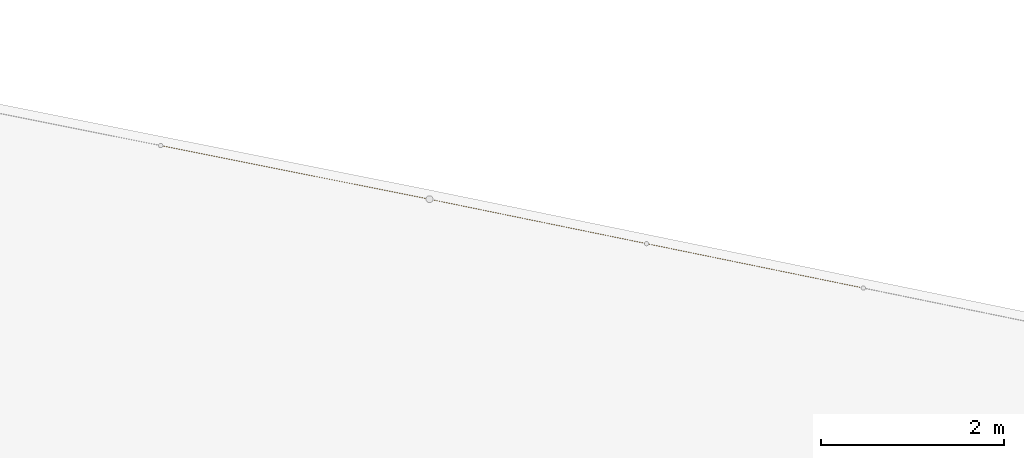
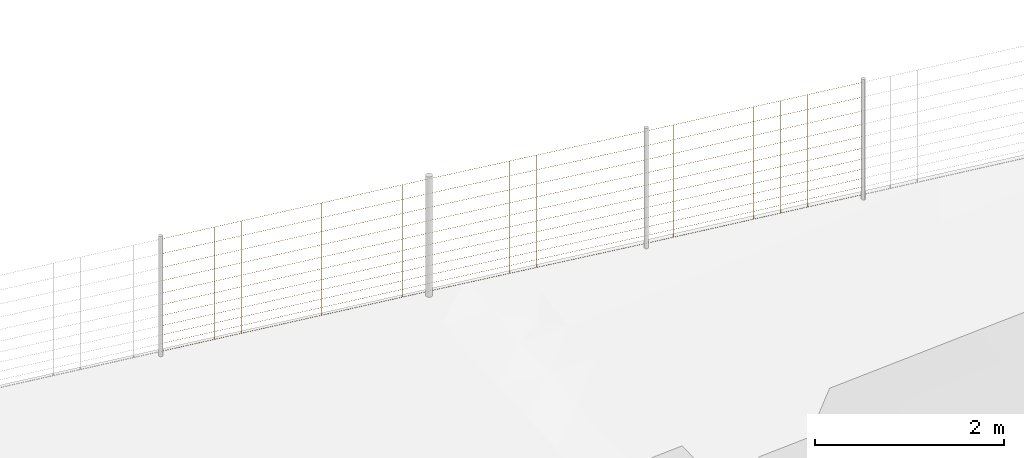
# Not in any storey, part 43 of 72: 3 railings.
"""IFC4 model written with IfcOpenShell, lengths in metres."""

import ifcopenshell
import ifcopenshell.guid

model = None  # the IFC model being written
_history = None  # IfcOwnerHistory: only IFC2X3 demands one
_inside = {}  # id of a spatial element -> (the spatial element, [elements in it])
_under = {}  # id of a project, library or spatial element -> (it, [spatial elements below it])
_declared = {}  # id of a project -> (the project, [libraries it declares])
_typed = {}  # id of a type object -> (the type object, [elements of that type])
_made_of = {}  # id of a material, layer set ... -> (it, [elements and type objects made of it])


def new_model(schema):
    """Start an empty IFC model of exactly this schema.

    Asked for "IFC4X3", IfcOpenShell would pick the latest addendum, in which some entities
    have other attributes; the version numbers below select the first issue.
    IFC2X3 requires an IfcOwnerHistory on every rooted entity: one is made here for all.
    """
    global model, _history
    if schema == "IFC4X3":
        model = ifcopenshell.file(schema_version=(4, 3, 0, 0))
    else:
        model = ifcopenshell.file(schema=schema)
    _inside.clear()
    _under.clear()
    _declared.clear()
    _typed.clear()
    _made_of.clear()
    _history = None
    if model.schema == "IFC2X3":
        org = make("IfcOrganization", Name="unknown")
        user = make(
            "IfcPersonAndOrganization",
            ThePerson=make("IfcPerson", FamilyName="unknown"),
            TheOrganization=org,
        )
        app = make(
            "IfcApplication",
            ApplicationDeveloper=org,
            Version="unknown",
            ApplicationFullName="unknown",
            ApplicationIdentifier="unknown",
        )
        _history = make(
            "IfcOwnerHistory",
            OwningUser=user,
            OwningApplication=app,
            ChangeAction="ADDED",
            CreationDate=0,
        )
    return model


def make(cls, **values):
    """One entity of the class cls with the attributes given. An attribute that is None is left unset."""
    return model.create_entity(
        cls, **{name: value for name, value in values.items() if value is not None}
    )


def rooted(cls, **values):
    """An entity with a GlobalId (a new one), such as an element, a storey or a relation."""
    return make(cls, GlobalId=ifcopenshell.guid.new(), OwnerHistory=_history, **values)


def si_unit(unit_type, name, prefix=None):
    """IfcSIUnit, for example si_unit("LENGTHUNIT", "METRE", prefix="MILLI")."""
    return make("IfcSIUnit", UnitType=unit_type, Prefix=prefix, Name=name)


def assignment(units):
    """IfcUnitAssignment: the units of a project."""
    return None if units is None else make("IfcUnitAssignment", Units=units)


def point(xyz):
    """IfcCartesianPoint."""
    return None if xyz is None else make("IfcCartesianPoint", Coordinates=xyz)


def direction(xyz):
    """IfcDirection."""
    return None if xyz is None else make("IfcDirection", DirectionRatios=xyz)


def frame(location, z_axis=None, x_axis=None):
    """IfcAxis2Placement3D, a coordinate frame: its origin and axes. An axis left out is left unset."""
    return make(
        "IfcAxis2Placement3D",
        Location=point(location),
        Axis=direction(z_axis),
        RefDirection=direction(x_axis),
    )


def origin_with_axes():
    """The frame at (0, 0, 0) with the z axis (0, 0, 1) and the x axis (1, 0, 0) written out."""
    return frame((0.0, 0.0, 0.0), z_axis=(0.0, 0.0, 1.0), x_axis=(1.0, 0.0, 0.0))


def place(relative_to, where):
    """IfcLocalPlacement: puts the frame where relative to a parent placement (None: the world)."""
    return make(
        "IfcLocalPlacement", PlacementRelTo=relative_to, RelativePlacement=where
    )


def context(
    kind, dimensions, precision=None, world=None, true_north=None, identifier=None
):
    """IfcGeometricRepresentationContext, for example the 3D "Model" context."""
    return make(
        "IfcGeometricRepresentationContext",
        ContextIdentifier=identifier,
        ContextType=kind,
        CoordinateSpaceDimension=dimensions,
        Precision=precision,
        WorldCoordinateSystem=world,
        TrueNorth=true_north,
    )


def subcontext(parent, identifier, kind, view, scale=None):
    """IfcGeometricRepresentationSubContext, for example "Body" below "Model"."""
    return make(
        "IfcGeometricRepresentationSubContext",
        ContextIdentifier=identifier,
        ContextType=kind,
        ParentContext=parent,
        TargetScale=scale,
        TargetView=view,
    )


def project(units=None, contexts=None):
    """IfcProject with its units and contexts."""
    return rooted(
        "IfcProject",
        Name="project",
        RepresentationContexts=contexts,
        UnitsInContext=assignment(units),
    )


def spatial(cls, under=None, at=None, **own):
    """A site, building, storey or space (cls), placed at a placement, below another one or the project."""
    s = rooted(cls, ObjectPlacement=at, **own)
    if under is not None:
        _under.setdefault(under.id(), (under, []))[1].append(s)
    return s


def point_list(points):
    """IfcCartesianPointList2D or 3D."""
    cls = (
        "IfcCartesianPointList2D" if len(points[0]) == 2 else "IfcCartesianPointList3D"
    )
    return make(cls, CoordList=points)


def polygons(points, faces, closed=None, point_numbers=None):
    """IfcPolygonalFaceSet: a face is its outer loop, then its inner loops; points numbered from 1."""
    made = []
    for loops in faces:
        if len(loops) == 1:
            made.append(make("IfcIndexedPolygonalFace", CoordIndex=loops[0]))
        else:
            made.append(
                make(
                    "IfcIndexedPolygonalFaceWithVoids",
                    CoordIndex=loops[0],
                    InnerCoordIndices=loops[1:],
                )
            )
    return make(
        "IfcPolygonalFaceSet",
        Coordinates=point_list(points),
        Closed=closed,
        Faces=made,
        PnIndex=point_numbers,
    )


def shape(context_of_items, identifier, shape_type, items):
    """IfcShapeRepresentation: the items that make up one representation, for example the "Body"."""
    return make(
        "IfcShapeRepresentation",
        ContextOfItems=context_of_items,
        RepresentationIdentifier=identifier,
        RepresentationType=shape_type,
        Items=items,
    )


def material(Name=None, Category=None):
    """IfcMaterial."""
    return make("IfcMaterial", Name=Name, Category=Category)


def made_of(thing, what):
    """Note that an element or type object is made of a material, layer set ...; save() writes the relation."""
    if what is not None:
        _made_of.setdefault(what.id(), (what, []))[1].append(thing)
    return thing


def element(
    cls,
    number,
    at=None,
    inside=None,
    cuts=None,
    type_object=None,
    material=None,
    context=None,
    identifier="Body",
    shape_type=None,
    held_by="IfcProductDefinitionShape",
    body=None,
    shapes=None,
    **own,
):
    """One element of the class cls, such as IfcWall. Its Tag is "e" and its number.

    at: its placement. inside: the storey or other place that contains it. cuts: it is an
    opening in that element (IfcRelVoidsElement). A single representation is given by context,
    identifier, shape_type and body (its items); several are given by shapes. held_by: the class
    of the entity that holds the representations. save() writes the other relations.
    """
    e = rooted(cls, Tag="e%d" % number, ObjectPlacement=at, **own)
    if body is not None:
        shapes = [shape(context, identifier, shape_type, body)]
    if shapes is not None:
        e.Representation = make(held_by, Representations=shapes)
    if inside is not None:
        _inside.setdefault(inside.id(), (inside, []))[1].append(e)
    if cuts is not None:
        rooted(
            "IfcRelVoidsElement", RelatingBuildingElement=cuts, RelatedOpeningElement=e
        )
    if type_object is not None:
        _typed.setdefault(type_object.id(), (type_object, []))[1].append(e)
    return made_of(e, material)


def aggregate(whole, parts):
    """IfcRelAggregates: a whole, such as a stair, and the parts it consists of."""
    return rooted("IfcRelAggregates", RelatingObject=whole, RelatedObjects=parts)


def save(model, path):
    """Write the relations noted so far, then the file.

    IfcRelAggregates (storeys below a building ...), IfcRelContainedInSpatialStructure (elements
    in a storey), IfcRelDefinesByType, IfcRelAssociatesMaterial and IfcRelDeclares: one each for
    every whole, place, type object, material and project.
    """
    for whole, parts in _under.values():
        aggregate(whole, parts)
    for where, things in _inside.values():
        rooted(
            "IfcRelContainedInSpatialStructure",
            RelatedElements=things,
            RelatingStructure=where,
        )
    for kind, things in _typed.values():
        rooted("IfcRelDefinesByType", RelatedObjects=things, RelatingType=kind)
    for what, things in _made_of.values():
        rooted("IfcRelAssociatesMaterial", RelatedObjects=things, RelatingMaterial=what)
    for by, libraries in _declared.values():
        rooted("IfcRelDeclares", RelatingContext=by, RelatedDefinitions=libraries)
    model.write(path)


model = new_model("IFC4")

# Units and contexts
model_context = context("Model", 3, precision=1e-05, world=origin_with_axes(), true_north=direction((0.0, 1.0)))
body_context = subcontext(model_context, "Body", "Model", "MODEL_VIEW")
ifc_project = project(units=[si_unit("VOLUMEUNIT", "CUBIC_METRE"), si_unit("LENGTHUNIT", "METRE"), si_unit("AREAUNIT", "SQUARE_METRE")], contexts=[model_context])

# Site
site_placement = place(None, origin_with_axes())
site = spatial("IfcSite", under=ifc_project, at=site_placement, Name="Lares · Rua das Mercês · artigo 4771")

# Railings
ifc_material = material(Name="Aço galvanizado / Stahl verzinkt", Category="steel")
railing_1_placement = place(site_placement, frame((0.0, 0.0, 0.0), z_axis=(0.0, 0.0, 1.0), x_axis=(1.0, -1.03767253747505e-17, 0.0)))
element("IfcRailing", 1, at=railing_1_placement, inside=site, material=ifc_material, Name="Vedação · rede ovelheira 1.063", ObjectType="SHEEP_WIRE_FENCE", PredefinedType="USERDEFINED", context=body_context, shape_type="Tessellation", body=[
    polygons([(33.677294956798, 17.9190041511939, 14.6710853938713), (33.6776402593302, 17.9204648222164, 14.6695863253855), (33.6778818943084, 17.9219461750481, 14.6710853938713), (33.6775365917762, 17.9204855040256, 14.6725844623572), (36.6180946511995, 17.332310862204, 14.7768175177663), (36.6184399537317, 17.3337715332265, 14.7753184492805), (36.6186815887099, 17.3352528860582, 14.7768175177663), (36.6183362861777, 17.3337922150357, 14.7783165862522), (33.677294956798, 17.9190041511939, 14.7710853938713), (33.6776402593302, 17.9204648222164, 14.7695863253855), (33.6778818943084, 17.9219461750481, 14.7710853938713), (33.6775365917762, 17.9204855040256, 14.7725844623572), (36.6180946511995, 17.332310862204, 14.8768175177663), (36.6184399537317, 17.3337715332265, 14.8753184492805), (36.6186815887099, 17.3352528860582, 14.8768175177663), (36.6183362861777, 17.3337922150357, 14.8783165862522), (33.677294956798, 17.9190041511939, 14.8810853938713), (33.6776402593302, 17.9204648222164, 14.8795863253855), (33.6778818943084, 17.9219461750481, 14.8810853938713), (33.6775365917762, 17.9204855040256, 14.8825844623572), (36.6180946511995, 17.332310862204, 14.9868175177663), (36.6184399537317, 17.3337715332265, 14.9853184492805), (36.6186815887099, 17.3352528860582, 14.9868175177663), (36.6183362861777, 17.3337922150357, 14.9883165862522), (33.677294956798, 17.9190041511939, 15.0010853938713), (33.6776402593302, 17.9204648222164, 14.9995863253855), (33.6778818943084, 17.9219461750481, 15.0010853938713), (33.6775365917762, 17.9204855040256, 15.0025844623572), (36.6180946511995, 17.332310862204, 15.1068175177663), (36.6184399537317, 17.3337715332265, 15.1053184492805), (36.6186815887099, 17.3352528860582, 15.1068175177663), (36.6183362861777, 17.3337922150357, 15.1083165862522), (33.677294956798, 17.9190041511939, 15.1310853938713), (33.6776402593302, 17.9204648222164, 15.1295863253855), (33.6778818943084, 17.9219461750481, 15.1310853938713), (33.6775365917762, 17.9204855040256, 15.1325844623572), (36.6180946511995, 17.332310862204, 15.2368175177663), (36.6184399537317, 17.3337715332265, 15.2353184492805), (36.6186815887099, 17.3352528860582, 15.2368175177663), (36.6183362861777, 17.3337922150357, 15.2383165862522), (33.677294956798, 17.9190041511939, 15.2710853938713), (33.6776402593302, 17.9204648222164, 15.2695863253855), (33.6778818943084, 17.9219461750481, 15.2710853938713), (33.6775365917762, 17.9204855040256, 15.2725844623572), (36.6180946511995, 17.332310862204, 15.3768175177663), (36.6184399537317, 17.3337715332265, 15.3753184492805), (36.6186815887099, 17.3352528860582, 15.3768175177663), (36.6183362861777, 17.3337922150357, 15.3783165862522), (33.677294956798, 17.9190041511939, 15.4210853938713), (33.6776402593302, 17.9204648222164, 15.4195863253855), (33.6778818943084, 17.9219461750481, 15.4210853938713), (33.6775365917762, 17.9204855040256, 15.4225844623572), (36.6180946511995, 17.332310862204, 15.5268175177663), (36.6184399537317, 17.3337715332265, 15.5253184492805), (36.6186815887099, 17.3352528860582, 15.5268175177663), (36.6183362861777, 17.3337922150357, 15.5283165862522), (33.677294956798, 17.9190041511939, 15.5810853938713), (33.6776402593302, 17.9204648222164, 15.5795863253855), (33.6778818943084, 17.9219461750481, 15.5810853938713), (33.6775365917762, 17.9204855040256, 15.5825844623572), (36.6180946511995, 17.332310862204, 15.6868175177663), (36.6184399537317, 17.3337715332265, 15.6853184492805), (36.6186815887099, 17.3352528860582, 15.6868175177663), (36.6183362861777, 17.3337922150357, 15.6883165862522), (33.677294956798, 17.9190041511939, 15.7510853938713), (33.6776402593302, 17.9204648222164, 15.7495863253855), (33.6778818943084, 17.9219461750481, 15.7510853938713), (33.6775365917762, 17.9204855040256, 15.7525844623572), (36.6180946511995, 17.332310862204, 15.8568175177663), (36.6184399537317, 17.3337715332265, 15.8553184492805), (36.6186815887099, 17.3352528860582, 15.8568175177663), (36.6183362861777, 17.3337922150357, 15.8583165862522), (33.677294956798, 17.9190041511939, 15.9310853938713), (33.6776402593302, 17.9204648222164, 15.9295863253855), (33.6778818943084, 17.9219461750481, 15.9310853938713), (33.6775365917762, 17.9204855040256, 15.9325844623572), (36.6180946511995, 17.332310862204, 16.0368175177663), (36.6184399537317, 17.3337715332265, 16.0353184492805), (36.6186815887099, 17.3352528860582, 16.0368175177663), (36.6183362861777, 17.3337922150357, 16.0383165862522), (33.677294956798, 17.9190041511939, 16.1210853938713), (33.6776402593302, 17.9204648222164, 16.1195863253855), (33.6778818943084, 17.9219461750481, 16.1210853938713), (33.6775365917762, 17.9204855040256, 16.1225844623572), (36.6180946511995, 17.332310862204, 16.2268175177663), (36.6184399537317, 17.3337715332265, 16.2253184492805), (36.6186815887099, 17.3352528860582, 16.2268175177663), (36.6183362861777, 17.3337922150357, 16.2283165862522), (33.971790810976, 17.8632814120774, 14.6816630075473), (33.970290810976, 17.8617814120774, 14.6816630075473), (33.971790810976, 17.8602814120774, 14.6816630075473), (33.973290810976, 17.8617814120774, 14.6816630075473), (33.971790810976, 17.8632814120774, 16.1316630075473), (33.970290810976, 17.8617814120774, 16.1316630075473), (33.971790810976, 17.8602814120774, 16.1316630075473), (33.973290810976, 17.8617814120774, 16.1316630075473), (34.2659931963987, 17.8045876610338, 14.6922406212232), (34.2644931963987, 17.8030876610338, 14.6922406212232), (34.2659931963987, 17.8015876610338, 14.6922406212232), (34.2674931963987, 17.8030876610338, 14.6922406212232), (34.2659931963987, 17.8045876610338, 16.1422406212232), (34.2644931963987, 17.8030876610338, 16.1422406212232), (34.2659931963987, 17.8015876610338, 16.1422406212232), (34.2674931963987, 17.8030876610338, 16.1422406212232), (34.5601955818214, 17.7458939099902, 14.7028182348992), (34.5586955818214, 17.7443939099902, 14.7028182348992), (34.5601955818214, 17.7428939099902, 14.7028182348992), (34.5616955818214, 17.7443939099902, 14.7028182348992), (34.5601955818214, 17.7458939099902, 16.1528182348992), (34.5586955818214, 17.7443939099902, 16.1528182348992), (34.5601955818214, 17.7428939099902, 16.1528182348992), (34.5616955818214, 17.7443939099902, 16.1528182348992), (34.8543979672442, 17.6872001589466, 14.7133958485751), (34.8528979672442, 17.6857001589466, 14.7133958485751), (34.8543979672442, 17.6842001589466, 14.7133958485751), (34.8558979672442, 17.6857001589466, 14.7133958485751), (34.8543979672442, 17.6872001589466, 16.1633958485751), (34.8528979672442, 17.6857001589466, 16.1633958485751), (34.8543979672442, 17.6842001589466, 16.1633958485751), (34.8558979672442, 17.6857001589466, 16.1633958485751), (35.1486003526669, 17.6285064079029, 14.7239734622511), (35.1471003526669, 17.6270064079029, 14.7239734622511), (35.1486003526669, 17.6255064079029, 14.7239734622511), (35.1501003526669, 17.6270064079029, 14.7239734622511), (35.1486003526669, 17.6285064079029, 16.1739734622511), (35.1471003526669, 17.6270064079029, 16.1739734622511), (35.1486003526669, 17.6255064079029, 16.1739734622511), (35.1501003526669, 17.6270064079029, 16.1739734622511), (35.4428027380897, 17.5698126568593, 14.734551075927), (35.4413027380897, 17.5683126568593, 14.734551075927), (35.4428027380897, 17.5668126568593, 14.734551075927), (35.4443027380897, 17.5683126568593, 14.734551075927), (35.4428027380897, 17.5698126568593, 16.184551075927), (35.4413027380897, 17.5683126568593, 16.184551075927), (35.4428027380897, 17.5668126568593, 16.184551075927), (35.4443027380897, 17.5683126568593, 16.184551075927), (35.7370051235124, 17.5111189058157, 14.745128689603), (35.7355051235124, 17.5096189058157, 14.745128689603), (35.7370051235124, 17.5081189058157, 14.745128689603), (35.7385051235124, 17.5096189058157, 14.745128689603), (35.7370051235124, 17.5111189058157, 16.195128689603), (35.7355051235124, 17.5096189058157, 16.195128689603), (35.7370051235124, 17.5081189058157, 16.195128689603), (35.7385051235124, 17.5096189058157, 16.195128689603), (36.0312075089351, 17.4524251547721, 14.7557063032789), (36.0297075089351, 17.4509251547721, 14.7557063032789), (36.0312075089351, 17.4494251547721, 14.7557063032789), (36.0327075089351, 17.4509251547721, 14.7557063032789), (36.0312075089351, 17.4524251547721, 16.2057063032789), (36.0297075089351, 17.4509251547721, 16.2057063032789), (36.0312075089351, 17.4494251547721, 16.2057063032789), (36.0327075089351, 17.4509251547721, 16.2057063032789), (36.3254098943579, 17.3937314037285, 14.7662839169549), (36.3239098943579, 17.3922314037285, 14.7662839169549), (36.3254098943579, 17.3907314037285, 14.7662839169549), (36.3269098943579, 17.3922314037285, 14.7662839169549), (36.3254098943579, 17.3937314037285, 16.2162839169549), (36.3239098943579, 17.3922314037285, 16.2162839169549), (36.3254098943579, 17.3907314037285, 16.2162839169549), (36.3269098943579, 17.3922314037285, 16.2162839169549)], [[[4, 3, 2, 1]], [[5, 6, 7, 8]], [[1, 2, 6, 5]], [[2, 3, 7, 6]], [[3, 4, 8, 7]], [[4, 1, 5, 8]], [[12, 11, 10, 9]], [[13, 14, 15, 16]], [[9, 10, 14, 13]], [[10, 11, 15, 14]], [[11, 12, 16, 15]], [[12, 9, 13, 16]], [[20, 19, 18, 17]], [[21, 22, 23, 24]], [[17, 18, 22, 21]], [[18, 19, 23, 22]], [[19, 20, 24, 23]], [[20, 17, 21, 24]], [[28, 27, 26, 25]], [[29, 30, 31, 32]], [[25, 26, 30, 29]], [[26, 27, 31, 30]], [[27, 28, 32, 31]], [[28, 25, 29, 32]], [[36, 35, 34, 33]], [[37, 38, 39, 40]], [[33, 34, 38, 37]], [[34, 35, 39, 38]], [[35, 36, 40, 39]], [[36, 33, 37, 40]], [[44, 43, 42, 41]], [[45, 46, 47, 48]], [[41, 42, 46, 45]], [[42, 43, 47, 46]], [[43, 44, 48, 47]], [[44, 41, 45, 48]], [[52, 51, 50, 49]], [[53, 54, 55, 56]], [[49, 50, 54, 53]], [[50, 51, 55, 54]], [[51, 52, 56, 55]], [[52, 49, 53, 56]], [[60, 59, 58, 57]], [[61, 62, 63, 64]], [[57, 58, 62, 61]], [[58, 59, 63, 62]], [[59, 60, 64, 63]], [[60, 57, 61, 64]], [[68, 67, 66, 65]], [[69, 70, 71, 72]], [[65, 66, 70, 69]], [[66, 67, 71, 70]], [[67, 68, 72, 71]], [[68, 65, 69, 72]], [[76, 75, 74, 73]], [[77, 78, 79, 80]], [[73, 74, 78, 77]], [[74, 75, 79, 78]], [[75, 76, 80, 79]], [[76, 73, 77, 80]], [[84, 83, 82, 81]], [[85, 86, 87, 88]], [[81, 82, 86, 85]], [[82, 83, 87, 86]], [[83, 84, 88, 87]], [[84, 81, 85, 88]], [[92, 91, 90, 89]], [[93, 94, 95, 96]], [[89, 90, 94, 93]], [[90, 91, 95, 94]], [[91, 92, 96, 95]], [[92, 89, 93, 96]], [[100, 99, 98, 97]], [[101, 102, 103, 104]], [[97, 98, 102, 101]], [[98, 99, 103, 102]], [[99, 100, 104, 103]], [[100, 97, 101, 104]], [[108, 107, 106, 105]], [[109, 110, 111, 112]], [[105, 106, 110, 109]], [[106, 107, 111, 110]], [[107, 108, 112, 111]], [[108, 105, 109, 112]], [[116, 115, 114, 113]], [[117, 118, 119, 120]], [[113, 114, 118, 117]], [[114, 115, 119, 118]], [[115, 116, 120, 119]], [[116, 113, 117, 120]], [[124, 123, 122, 121]], [[125, 126, 127, 128]], [[121, 122, 126, 125]], [[122, 123, 127, 126]], [[123, 124, 128, 127]], [[124, 121, 125, 128]], [[132, 131, 130, 129]], [[133, 134, 135, 136]], [[129, 130, 134, 133]], [[130, 131, 135, 134]], [[131, 132, 136, 135]], [[132, 129, 133, 136]], [[140, 139, 138, 137]], [[141, 142, 143, 144]], [[137, 138, 142, 141]], [[138, 139, 143, 142]], [[139, 140, 144, 143]], [[140, 137, 141, 144]], [[148, 147, 146, 145]], [[149, 150, 151, 152]], [[145, 146, 150, 149]], [[146, 147, 151, 150]], [[147, 148, 152, 151]], [[148, 145, 149, 152]], [[156, 155, 154, 153]], [[157, 158, 159, 160]], [[153, 154, 158, 157]], [[154, 155, 159, 158]], [[155, 156, 160, 159]], [[156, 153, 157, 160]]]),
])
railing_2_placement = place(site_placement, frame((0.0, 0.0, 0.0), z_axis=(0.0, 0.0, 1.0), x_axis=(1.0, -1.03767253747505e-17, 0.0)))
element("IfcRailing", 2, at=railing_2_placement, inside=site, material=ifc_material, Name="Vedação · rede ovelheira 1.064", ObjectType="SHEEP_WIRE_FENCE", PredefinedType="USERDEFINED", context=body_context, shape_type="Tessellation", body=[
    polygons([(36.618087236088, 17.3323123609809, 14.7768175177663), (36.6184372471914, 17.3337718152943, 14.7753183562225), (36.6186890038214, 17.3352513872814, 14.7768175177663), (36.6183389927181, 17.3337919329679, 14.7783166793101), (38.9902403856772, 16.846612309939, 14.8578113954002), (38.9905903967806, 16.8480717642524, 14.8563122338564), (38.9908421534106, 16.8495513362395, 14.8578113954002), (38.9904921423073, 16.848091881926, 14.859310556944), (36.618087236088, 17.3323123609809, 14.8768175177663), (36.6184372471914, 17.3337718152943, 14.8753183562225), (36.6186890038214, 17.3352513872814, 14.8768175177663), (36.6183389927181, 17.3337919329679, 14.8783166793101), (38.9902403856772, 16.846612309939, 14.9578113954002), (38.9905903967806, 16.8480717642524, 14.9563122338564), (38.9908421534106, 16.8495513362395, 14.9578113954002), (38.9904921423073, 16.848091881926, 14.959310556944), (36.618087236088, 17.3323123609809, 14.9868175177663), (36.6184372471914, 17.3337718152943, 14.9853183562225), (36.6186890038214, 17.3352513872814, 14.9868175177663), (36.6183389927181, 17.3337919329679, 14.9883166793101), (38.9902403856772, 16.846612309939, 15.0678113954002), (38.9905903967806, 16.8480717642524, 15.0663122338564), (38.9908421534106, 16.8495513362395, 15.0678113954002), (38.9904921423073, 16.848091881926, 15.069310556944), (36.618087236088, 17.3323123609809, 15.1068175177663), (36.6184372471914, 17.3337718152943, 15.1053183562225), (36.6186890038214, 17.3352513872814, 15.1068175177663), (36.6183389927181, 17.3337919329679, 15.1083166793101), (38.9902403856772, 16.846612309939, 15.1878113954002), (38.9905903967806, 16.8480717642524, 15.1863122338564), (38.9908421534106, 16.8495513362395, 15.1878113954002), (38.9904921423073, 16.848091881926, 15.189310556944), (36.618087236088, 17.3323123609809, 15.2368175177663), (36.6184372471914, 17.3337718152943, 15.2353183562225), (36.6186890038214, 17.3352513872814, 15.2368175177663), (36.6183389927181, 17.3337919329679, 15.2383166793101), (38.9902403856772, 16.846612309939, 15.3178113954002), (38.9905903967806, 16.8480717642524, 15.3163122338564), (38.9908421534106, 16.8495513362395, 15.3178113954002), (38.9904921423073, 16.848091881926, 15.319310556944), (36.618087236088, 17.3323123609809, 15.3768175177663), (36.6184372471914, 17.3337718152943, 15.3753183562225), (36.6186890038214, 17.3352513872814, 15.3768175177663), (36.6183389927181, 17.3337919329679, 15.3783166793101), (38.9902403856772, 16.846612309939, 15.4578113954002), (38.9905903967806, 16.8480717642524, 15.4563122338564), (38.9908421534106, 16.8495513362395, 15.4578113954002), (38.9904921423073, 16.848091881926, 15.459310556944), (36.618087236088, 17.3323123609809, 15.5268175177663), (36.6184372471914, 17.3337718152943, 15.5253183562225), (36.6186890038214, 17.3352513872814, 15.5268175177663), (36.6183389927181, 17.3337919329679, 15.5283166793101), (38.9902403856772, 16.846612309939, 15.6078113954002), (38.9905903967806, 16.8480717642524, 15.6063122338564), (38.9908421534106, 16.8495513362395, 15.6078113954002), (38.9904921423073, 16.848091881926, 15.609310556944), (36.618087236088, 17.3323123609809, 15.6868175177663), (36.6184372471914, 17.3337718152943, 15.6853183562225), (36.6186890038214, 17.3352513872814, 15.6868175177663), (36.6183389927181, 17.3337919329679, 15.6883166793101), (38.9902403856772, 16.846612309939, 15.7678113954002), (38.9905903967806, 16.8480717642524, 15.7663122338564), (38.9908421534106, 16.8495513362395, 15.7678113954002), (38.9904921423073, 16.848091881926, 15.769310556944), (36.618087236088, 17.3323123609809, 15.8568175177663), (36.6184372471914, 17.3337718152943, 15.8553183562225), (36.6186890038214, 17.3352513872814, 15.8568175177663), (36.6183389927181, 17.3337919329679, 15.8583166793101), (38.9902403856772, 16.846612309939, 15.9378113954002), (38.9905903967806, 16.8480717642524, 15.9363122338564), (38.9908421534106, 16.8495513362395, 15.9378113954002), (38.9904921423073, 16.848091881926, 15.939310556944), (36.618087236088, 17.3323123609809, 16.0368175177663), (36.6184372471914, 17.3337718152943, 16.0353183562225), (36.6186890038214, 17.3352513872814, 16.0368175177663), (36.6183389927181, 17.3337919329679, 16.0383166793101), (38.9902403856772, 16.846612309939, 16.1178113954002), (38.9905903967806, 16.8480717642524, 16.1163122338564), (38.9908421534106, 16.8495513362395, 16.1178113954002), (38.9904921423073, 16.848091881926, 16.119310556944), (36.618087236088, 17.3323123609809, 16.2268175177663), (36.6184372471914, 17.3337718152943, 16.2253183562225), (36.6186890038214, 17.3352513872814, 16.2268175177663), (36.6183389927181, 17.3337919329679, 16.2283166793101), (38.9902403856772, 16.846612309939, 16.3078113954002), (38.9905903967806, 16.8480717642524, 16.3063122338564), (38.9908421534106, 16.8495513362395, 16.3078113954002), (38.9904921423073, 16.848091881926, 16.309310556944), (36.9122907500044, 17.2751051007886, 14.7868524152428), (36.9107907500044, 17.2736051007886, 14.7868524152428), (36.9122907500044, 17.2721051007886, 14.7868524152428), (36.9137907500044, 17.2736051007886, 14.7868524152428), (36.9122907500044, 17.2751051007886, 16.2368524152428), (36.9107907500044, 17.2736051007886, 16.2368524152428), (36.9122907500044, 17.2721051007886, 16.2368524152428), (36.9137907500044, 17.2736051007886, 16.2368524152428), (37.206193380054, 17.2149283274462, 14.7968873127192), (37.204693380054, 17.2134283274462, 14.7968873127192), (37.206193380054, 17.2119283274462, 14.7968873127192), (37.207693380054, 17.2134283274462, 14.7968873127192), (37.206193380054, 17.2149283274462, 16.2468873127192), (37.204693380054, 17.2134283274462, 16.2468873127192), (37.206193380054, 17.2119283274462, 16.2468873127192), (37.207693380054, 17.2134283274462, 16.2468873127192), (37.5000960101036, 17.1547515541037, 14.8069222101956), (37.4985960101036, 17.1532515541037, 14.8069222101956), (37.5000960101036, 17.1517515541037, 14.8069222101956), (37.5015960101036, 17.1532515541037, 14.8069222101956), (37.5000960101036, 17.1547515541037, 16.2569222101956), (37.4985960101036, 17.1532515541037, 16.2569222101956), (37.5000960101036, 17.1517515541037, 16.2569222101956), (37.5015960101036, 17.1532515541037, 16.2569222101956), (37.7939986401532, 17.0945747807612, 14.8169571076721), (37.7924986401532, 17.0930747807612, 14.8169571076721), (37.7939986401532, 17.0915747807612, 14.8169571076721), (37.7954986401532, 17.0930747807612, 14.8169571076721), (37.7939986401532, 17.0945747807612, 16.2669571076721), (37.7924986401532, 17.0930747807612, 16.2669571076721), (37.7939986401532, 17.0915747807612, 16.2669571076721), (37.7954986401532, 17.0930747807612, 16.2669571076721), (38.0879012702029, 17.0343980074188, 14.8269920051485), (38.0864012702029, 17.0328980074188, 14.8269920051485), (38.0879012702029, 17.0313980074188, 14.8269920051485), (38.0894012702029, 17.0328980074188, 14.8269920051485), (38.0879012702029, 17.0343980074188, 16.2769920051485), (38.0864012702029, 17.0328980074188, 16.2769920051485), (38.0879012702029, 17.0313980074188, 16.2769920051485), (38.0894012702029, 17.0328980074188, 16.2769920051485), (38.3818039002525, 16.9742212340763, 14.8370269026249), (38.3803039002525, 16.9727212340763, 14.8370269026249), (38.3818039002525, 16.9712212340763, 14.8370269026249), (38.3833039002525, 16.9727212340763, 14.8370269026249), (38.3818039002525, 16.9742212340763, 16.2870269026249), (38.3803039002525, 16.9727212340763, 16.2870269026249), (38.3818039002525, 16.9712212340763, 16.2870269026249), (38.3833039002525, 16.9727212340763, 16.2870269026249), (38.6757065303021, 16.9140444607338, 14.8470618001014), (38.6742065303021, 16.9125444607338, 14.8470618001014), (38.6757065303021, 16.9110444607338, 14.8470618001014), (38.6772065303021, 16.9125444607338, 14.8470618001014), (38.6757065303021, 16.9140444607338, 16.2970618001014), (38.6742065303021, 16.9125444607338, 16.2970618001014), (38.6757065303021, 16.9110444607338, 16.2970618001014), (38.6772065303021, 16.9125444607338, 16.2970618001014)], [[[4, 3, 2, 1]], [[5, 6, 7, 8]], [[1, 2, 6, 5]], [[2, 3, 7, 6]], [[3, 4, 8, 7]], [[4, 1, 5, 8]], [[12, 11, 10, 9]], [[13, 14, 15, 16]], [[9, 10, 14, 13]], [[10, 11, 15, 14]], [[11, 12, 16, 15]], [[12, 9, 13, 16]], [[20, 19, 18, 17]], [[21, 22, 23, 24]], [[17, 18, 22, 21]], [[18, 19, 23, 22]], [[19, 20, 24, 23]], [[20, 17, 21, 24]], [[28, 27, 26, 25]], [[29, 30, 31, 32]], [[25, 26, 30, 29]], [[26, 27, 31, 30]], [[27, 28, 32, 31]], [[28, 25, 29, 32]], [[36, 35, 34, 33]], [[37, 38, 39, 40]], [[33, 34, 38, 37]], [[34, 35, 39, 38]], [[35, 36, 40, 39]], [[36, 33, 37, 40]], [[44, 43, 42, 41]], [[45, 46, 47, 48]], [[41, 42, 46, 45]], [[42, 43, 47, 46]], [[43, 44, 48, 47]], [[44, 41, 45, 48]], [[52, 51, 50, 49]], [[53, 54, 55, 56]], [[49, 50, 54, 53]], [[50, 51, 55, 54]], [[51, 52, 56, 55]], [[52, 49, 53, 56]], [[60, 59, 58, 57]], [[61, 62, 63, 64]], [[57, 58, 62, 61]], [[58, 59, 63, 62]], [[59, 60, 64, 63]], [[60, 57, 61, 64]], [[68, 67, 66, 65]], [[69, 70, 71, 72]], [[65, 66, 70, 69]], [[66, 67, 71, 70]], [[67, 68, 72, 71]], [[68, 65, 69, 72]], [[76, 75, 74, 73]], [[77, 78, 79, 80]], [[73, 74, 78, 77]], [[74, 75, 79, 78]], [[75, 76, 80, 79]], [[76, 73, 77, 80]], [[84, 83, 82, 81]], [[85, 86, 87, 88]], [[81, 82, 86, 85]], [[82, 83, 87, 86]], [[83, 84, 88, 87]], [[84, 81, 85, 88]], [[92, 91, 90, 89]], [[93, 94, 95, 96]], [[89, 90, 94, 93]], [[90, 91, 95, 94]], [[91, 92, 96, 95]], [[92, 89, 93, 96]], [[100, 99, 98, 97]], [[101, 102, 103, 104]], [[97, 98, 102, 101]], [[98, 99, 103, 102]], [[99, 100, 104, 103]], [[100, 97, 101, 104]], [[108, 107, 106, 105]], [[109, 110, 111, 112]], [[105, 106, 110, 109]], [[106, 107, 111, 110]], [[107, 108, 112, 111]], [[108, 105, 109, 112]], [[116, 115, 114, 113]], [[117, 118, 119, 120]], [[113, 114, 118, 117]], [[114, 115, 119, 118]], [[115, 116, 120, 119]], [[116, 113, 117, 120]], [[124, 123, 122, 121]], [[125, 126, 127, 128]], [[121, 122, 126, 125]], [[122, 123, 127, 126]], [[123, 124, 128, 127]], [[124, 121, 125, 128]], [[132, 131, 130, 129]], [[133, 134, 135, 136]], [[129, 130, 134, 133]], [[130, 131, 135, 134]], [[131, 132, 136, 135]], [[132, 129, 133, 136]], [[140, 139, 138, 137]], [[141, 142, 143, 144]], [[137, 138, 142, 141]], [[138, 139, 143, 142]], [[139, 140, 144, 143]], [[140, 137, 141, 144]]]),
])
railing_3_placement = place(site_placement, frame((0.0, 0.0, 0.0), z_axis=(0.0, 0.0, 1.0), x_axis=(1.0, -1.03767253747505e-17, 0.0)))
element("IfcRailing", 3, at=railing_3_placement, inside=site, material=ifc_material, Name="Vedação · rede ovelheira 1.065", ObjectType="SHEEP_WIRE_FENCE", PredefinedType="USERDEFINED", context=body_context, shape_type="Tessellation", body=[
    polygons([(38.9902403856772, 16.846612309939, 14.8578113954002), (38.9905989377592, 16.848070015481, 14.8563125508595), (38.9908421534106, 16.8495513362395, 14.8578113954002), (38.9904836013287, 16.8480936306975, 14.859310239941), (41.3623935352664, 16.3609122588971, 14.9529065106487), (41.3627520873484, 16.3623699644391, 14.9514076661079), (41.3629953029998, 16.3638512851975, 14.9529065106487), (41.3626367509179, 16.3623935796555, 14.9544053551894), (38.9902403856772, 16.846612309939, 14.9578113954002), (38.9905989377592, 16.848070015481, 14.9563125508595), (38.9908421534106, 16.8495513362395, 14.9578113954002), (38.9904836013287, 16.8480936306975, 14.959310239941), (41.3623935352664, 16.3609122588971, 15.0529065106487), (41.3627520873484, 16.3623699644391, 15.0514076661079), (41.3629953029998, 16.3638512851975, 15.0529065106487), (41.3626367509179, 16.3623935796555, 15.0544053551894), (38.9902403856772, 16.846612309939, 15.0678113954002), (38.9905989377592, 16.848070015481, 15.0663125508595), (38.9908421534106, 16.8495513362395, 15.0678113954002), (38.9904836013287, 16.8480936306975, 15.069310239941), (41.3623935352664, 16.3609122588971, 15.1629065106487), (41.3627520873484, 16.3623699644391, 15.1614076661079), (41.3629953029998, 16.3638512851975, 15.1629065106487), (41.3626367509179, 16.3623935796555, 15.1644053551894), (38.9902403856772, 16.846612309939, 15.1878113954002), (38.9905989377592, 16.848070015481, 15.1863125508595), (38.9908421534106, 16.8495513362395, 15.1878113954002), (38.9904836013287, 16.8480936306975, 15.189310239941), (41.3623935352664, 16.3609122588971, 15.2829065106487), (41.3627520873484, 16.3623699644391, 15.2814076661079), (41.3629953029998, 16.3638512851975, 15.2829065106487), (41.3626367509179, 16.3623935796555, 15.2844053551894), (38.9902403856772, 16.846612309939, 15.3178113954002), (38.9905989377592, 16.848070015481, 15.3163125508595), (38.9908421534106, 16.8495513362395, 15.3178113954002), (38.9904836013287, 16.8480936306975, 15.319310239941), (41.3623935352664, 16.3609122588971, 15.4129065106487), (41.3627520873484, 16.3623699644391, 15.4114076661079), (41.3629953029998, 16.3638512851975, 15.4129065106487), (41.3626367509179, 16.3623935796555, 15.4144053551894), (38.9902403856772, 16.846612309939, 15.4578113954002), (38.9905989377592, 16.848070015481, 15.4563125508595), (38.9908421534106, 16.8495513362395, 15.4578113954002), (38.9904836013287, 16.8480936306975, 15.459310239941), (41.3623935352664, 16.3609122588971, 15.5529065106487), (41.3627520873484, 16.3623699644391, 15.5514076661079), (41.3629953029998, 16.3638512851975, 15.5529065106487), (41.3626367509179, 16.3623935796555, 15.5544053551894), (38.9902403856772, 16.846612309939, 15.6078113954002), (38.9905989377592, 16.848070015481, 15.6063125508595), (38.9908421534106, 16.8495513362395, 15.6078113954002), (38.9904836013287, 16.8480936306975, 15.609310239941), (41.3623935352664, 16.3609122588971, 15.7029065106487), (41.3627520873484, 16.3623699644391, 15.7014076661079), (41.3629953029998, 16.3638512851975, 15.7029065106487), (41.3626367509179, 16.3623935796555, 15.7044053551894), (38.9902403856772, 16.846612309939, 15.7678113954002), (38.9905989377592, 16.848070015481, 15.7663125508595), (38.9908421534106, 16.8495513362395, 15.7678113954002), (38.9904836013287, 16.8480936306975, 15.769310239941), (41.3623935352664, 16.3609122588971, 15.8629065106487), (41.3627520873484, 16.3623699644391, 15.8614076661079), (41.3629953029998, 16.3638512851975, 15.8629065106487), (41.3626367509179, 16.3623935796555, 15.8644053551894), (38.9902403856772, 16.846612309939, 15.9378113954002), (38.9905989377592, 16.848070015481, 15.9363125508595), (38.9908421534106, 16.8495513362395, 15.9378113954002), (38.9904836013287, 16.8480936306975, 15.939310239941), (41.3623935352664, 16.3609122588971, 16.0329065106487), (41.3627520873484, 16.3623699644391, 16.0314076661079), (41.3629953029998, 16.3638512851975, 16.0329065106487), (41.3626367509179, 16.3623935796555, 16.0344053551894), (38.9902403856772, 16.846612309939, 16.1178113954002), (38.9905989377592, 16.848070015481, 16.1163125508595), (38.9908421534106, 16.8495513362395, 16.1178113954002), (38.9904836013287, 16.8480936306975, 16.119310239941), (41.3623935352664, 16.3609122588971, 16.2129065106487), (41.3627520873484, 16.3623699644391, 16.2114076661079), (41.3629953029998, 16.3638512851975, 16.2129065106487), (41.3626367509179, 16.3623935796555, 16.2144053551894), (38.9902403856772, 16.846612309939, 16.3078113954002), (38.9905989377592, 16.848070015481, 16.3063125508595), (38.9908421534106, 16.8495513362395, 16.3078113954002), (38.9904836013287, 16.8480936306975, 16.309310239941), (41.3623935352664, 16.3609122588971, 16.4029065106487), (41.3627520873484, 16.3623699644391, 16.4014076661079), (41.3629953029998, 16.3638512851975, 16.4029065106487), (41.3626367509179, 16.3623935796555, 16.4044053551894), (39.2844438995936, 16.7894050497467, 14.8695933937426), (39.2829438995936, 16.7879050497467, 14.8695933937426), (39.2844438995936, 16.7864050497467, 14.8695933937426), (39.2859438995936, 16.7879050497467, 14.8695933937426), (39.2844438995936, 16.7894050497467, 16.3195933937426), (39.2829438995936, 16.7879050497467, 16.3195933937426), (39.2844438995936, 16.7864050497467, 16.3195933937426), (39.2859438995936, 16.7879050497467, 16.3195933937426), (39.5783465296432, 16.7292282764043, 14.881375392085), (39.5768465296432, 16.7277282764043, 14.881375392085), (39.5783465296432, 16.7262282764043, 14.881375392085), (39.5798465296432, 16.7277282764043, 14.881375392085), (39.5783465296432, 16.7292282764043, 16.331375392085), (39.5768465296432, 16.7277282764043, 16.331375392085), (39.5783465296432, 16.7262282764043, 16.331375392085), (39.5798465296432, 16.7277282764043, 16.331375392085), (39.8722491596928, 16.6690515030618, 14.8931573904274), (39.8707491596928, 16.6675515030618, 14.8931573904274), (39.8722491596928, 16.6660515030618, 14.8931573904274), (39.8737491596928, 16.6675515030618, 14.8931573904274), (39.8722491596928, 16.6690515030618, 16.3431573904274), (39.8707491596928, 16.6675515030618, 16.3431573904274), (39.8722491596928, 16.6660515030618, 16.3431573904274), (39.8737491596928, 16.6675515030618, 16.3431573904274), (40.1661517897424, 16.6088747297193, 14.9049393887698), (40.1646517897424, 16.6073747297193, 14.9049393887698), (40.1661517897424, 16.6058747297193, 14.9049393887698), (40.1676517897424, 16.6073747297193, 14.9049393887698), (40.1661517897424, 16.6088747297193, 16.3549393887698), (40.1646517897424, 16.6073747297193, 16.3549393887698), (40.1661517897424, 16.6058747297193, 16.3549393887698), (40.1676517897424, 16.6073747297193, 16.3549393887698), (40.4600544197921, 16.5486979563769, 14.9167213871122), (40.4585544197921, 16.5471979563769, 14.9167213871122), (40.4600544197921, 16.5456979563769, 14.9167213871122), (40.4615544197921, 16.5471979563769, 14.9167213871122), (40.4600544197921, 16.5486979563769, 16.3667213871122), (40.4585544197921, 16.5471979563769, 16.3667213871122), (40.4600544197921, 16.5456979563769, 16.3667213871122), (40.4615544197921, 16.5471979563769, 16.3667213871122), (40.7539570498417, 16.4885211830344, 14.9285033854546), (40.7524570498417, 16.4870211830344, 14.9285033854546), (40.7539570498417, 16.4855211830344, 14.9285033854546), (40.7554570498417, 16.4870211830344, 14.9285033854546), (40.7539570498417, 16.4885211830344, 16.3785033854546), (40.7524570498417, 16.4870211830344, 16.3785033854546), (40.7539570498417, 16.4855211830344, 16.3785033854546), (40.7554570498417, 16.4870211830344, 16.3785033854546), (41.0478596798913, 16.4283444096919, 14.9402853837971), (41.0463596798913, 16.4268444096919, 14.9402853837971), (41.0478596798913, 16.4253444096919, 14.9402853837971), (41.0493596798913, 16.4268444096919, 14.9402853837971), (41.0478596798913, 16.4283444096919, 16.390285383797), (41.0463596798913, 16.4268444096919, 16.390285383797), (41.0478596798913, 16.4253444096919, 16.390285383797), (41.0493596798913, 16.4268444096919, 16.390285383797)], [[[4, 3, 2, 1]], [[5, 6, 7, 8]], [[1, 2, 6, 5]], [[2, 3, 7, 6]], [[3, 4, 8, 7]], [[4, 1, 5, 8]], [[12, 11, 10, 9]], [[13, 14, 15, 16]], [[9, 10, 14, 13]], [[10, 11, 15, 14]], [[11, 12, 16, 15]], [[12, 9, 13, 16]], [[20, 19, 18, 17]], [[21, 22, 23, 24]], [[17, 18, 22, 21]], [[18, 19, 23, 22]], [[19, 20, 24, 23]], [[20, 17, 21, 24]], [[28, 27, 26, 25]], [[29, 30, 31, 32]], [[25, 26, 30, 29]], [[26, 27, 31, 30]], [[27, 28, 32, 31]], [[28, 25, 29, 32]], [[36, 35, 34, 33]], [[37, 38, 39, 40]], [[33, 34, 38, 37]], [[34, 35, 39, 38]], [[35, 36, 40, 39]], [[36, 33, 37, 40]], [[44, 43, 42, 41]], [[45, 46, 47, 48]], [[41, 42, 46, 45]], [[42, 43, 47, 46]], [[43, 44, 48, 47]], [[44, 41, 45, 48]], [[52, 51, 50, 49]], [[53, 54, 55, 56]], [[49, 50, 54, 53]], [[50, 51, 55, 54]], [[51, 52, 56, 55]], [[52, 49, 53, 56]], [[60, 59, 58, 57]], [[61, 62, 63, 64]], [[57, 58, 62, 61]], [[58, 59, 63, 62]], [[59, 60, 64, 63]], [[60, 57, 61, 64]], [[68, 67, 66, 65]], [[69, 70, 71, 72]], [[65, 66, 70, 69]], [[66, 67, 71, 70]], [[67, 68, 72, 71]], [[68, 65, 69, 72]], [[76, 75, 74, 73]], [[77, 78, 79, 80]], [[73, 74, 78, 77]], [[74, 75, 79, 78]], [[75, 76, 80, 79]], [[76, 73, 77, 80]], [[84, 83, 82, 81]], [[85, 86, 87, 88]], [[81, 82, 86, 85]], [[82, 83, 87, 86]], [[83, 84, 88, 87]], [[84, 81, 85, 88]], [[92, 91, 90, 89]], [[93, 94, 95, 96]], [[89, 90, 94, 93]], [[90, 91, 95, 94]], [[91, 92, 96, 95]], [[92, 89, 93, 96]], [[100, 99, 98, 97]], [[101, 102, 103, 104]], [[97, 98, 102, 101]], [[98, 99, 103, 102]], [[99, 100, 104, 103]], [[100, 97, 101, 104]], [[108, 107, 106, 105]], [[109, 110, 111, 112]], [[105, 106, 110, 109]], [[106, 107, 111, 110]], [[107, 108, 112, 111]], [[108, 105, 109, 112]], [[116, 115, 114, 113]], [[117, 118, 119, 120]], [[113, 114, 118, 117]], [[114, 115, 119, 118]], [[115, 116, 120, 119]], [[116, 113, 117, 120]], [[124, 123, 122, 121]], [[125, 126, 127, 128]], [[121, 122, 126, 125]], [[122, 123, 127, 126]], [[123, 124, 128, 127]], [[124, 121, 125, 128]], [[132, 131, 130, 129]], [[133, 134, 135, 136]], [[129, 130, 134, 133]], [[130, 131, 135, 134]], [[131, 132, 136, 135]], [[132, 129, 133, 136]], [[140, 139, 138, 137]], [[141, 142, 143, 144]], [[137, 138, 142, 141]], [[138, 139, 143, 142]], [[139, 140, 144, 143]], [[140, 137, 141, 144]]]),
])

save(model, "model.ifc")
